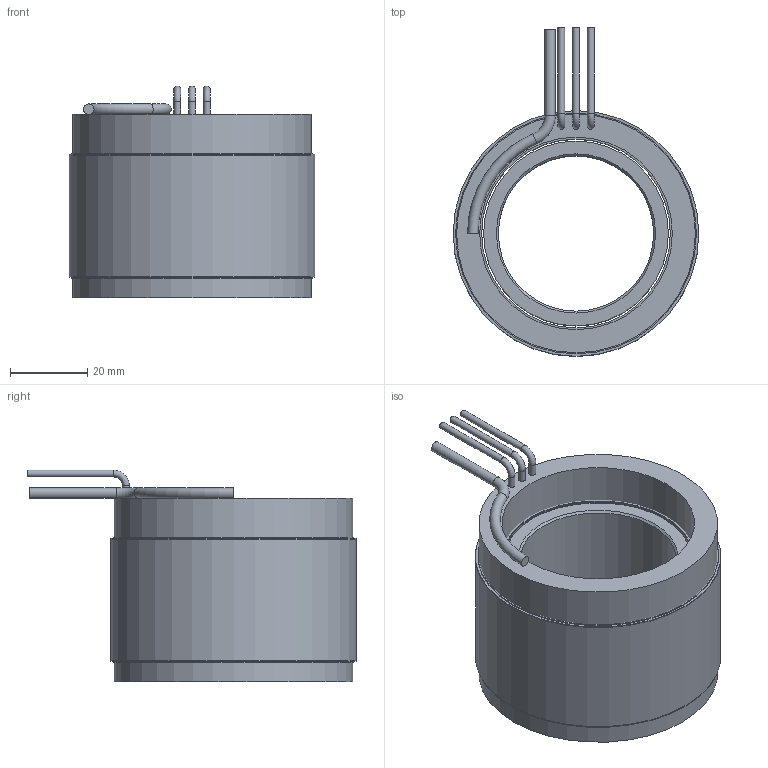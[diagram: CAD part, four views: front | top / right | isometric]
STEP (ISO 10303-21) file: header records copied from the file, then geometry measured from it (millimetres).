
FILE_DESCRIPTION (( 'STEP AP214' ), '1' );
FILE_NAME ('6100391-04.STEP', '2020-12-15T02:40:56', ( '' ), ( '' ), 'SwSTEP 2.0', 'SolidWorks 2016', '' );
FILE_SCHEMA (( 'AUTOMOTIVE_DESIGN' ));
Length unit declared in the file: inch
Products named in the file (10): 4250379-XX_4250379-04; COMP4500558-XX(COIL)_COMP4500558-04(COIL); 4450189-XX_4450189-04; 4400101-00; 4500558-XX_4500558-04; 6100391-04; 4150178-XX_4150178-04; 4600565-00
Assembly tree (10 placements, depth 4):
  6100391-04
    4250379-XX_4250379-04
      4150178-XX_4150178-04
    4500558-XX_4500558-04
      4450189-XX_4450189-04
        4450189-XX_4450189-04
        4400101-00
        4400101-00
        4600565-00  x2
      COMP4500558-XX(COIL)_COMP4500558-04(COIL)
Bounding box: 63.5 x 84.96 x 54.74 mm (x, y, z)
Volume: 108746.6 mm3; surface area: 53378.1 mm2
Topology: 8 solids, 8 shells, 47 faces, 74 edges, 46 vertices
Faces by surface type: cylinder 21, plane 19, torus 5, cone 2
Full cylindrical faces by diameter (mm): 1.778 x6, 2.72 x1, 40.132 x1, 47.752 x1, 48.768 x5, 49.783 x1, 61.722 x1, 62.23 x2, 63.5 x3
Entity records: 1305 total; most frequent: DIRECTION 202, CARTESIAN_POINT 143, AXIS2_PLACEMENT_3D 101, EDGE_LOOP 84, ORIENTED_EDGE 84, FACE_OUTER_BOUND 67, ADVANCED_FACE 43, VERTEX_POINT 42
